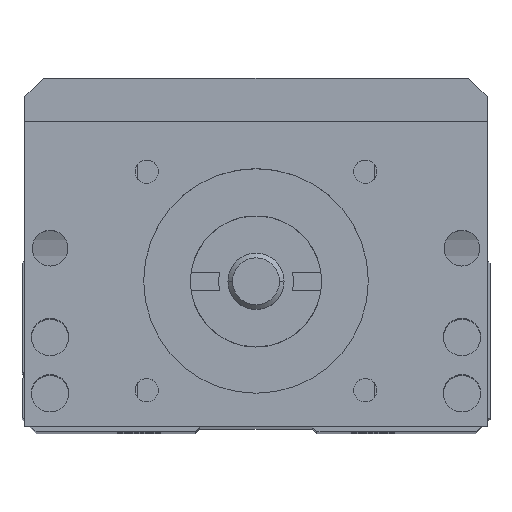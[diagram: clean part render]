
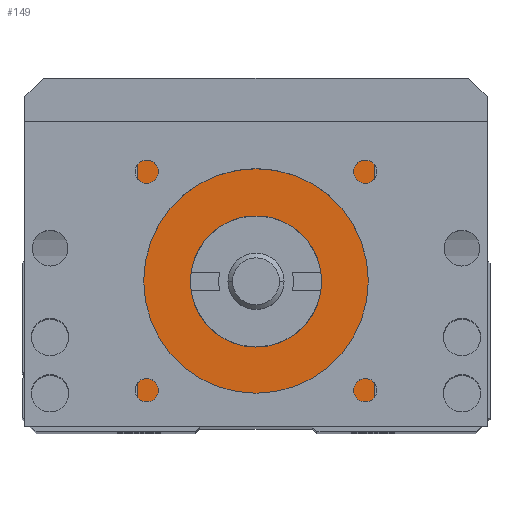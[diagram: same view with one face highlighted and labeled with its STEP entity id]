
A CAD part, top view. The second image highlights one B-rep face of the part: STEP entity #149.
In plain terms, the highlighted planar face has unit normal (0, 0, 1).
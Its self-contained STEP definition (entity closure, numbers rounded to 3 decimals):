
#120 = ORIENTED_EDGE ( 'NONE', *, *, #123, .F. ) ;
#121 = VERTEX_POINT ( 'NONE', #3311 ) ;
#123 = EDGE_CURVE ( 'NONE', #2897, #2893, #3294, .T. ) ;
#126 = ORIENTED_EDGE ( 'NONE', *, *, #128, .T. ) ;
#128 = EDGE_CURVE ( 'NONE', #121, #140, #3286, .T. ) ;
#130 = EDGE_LOOP ( 'NONE', ( #120, #135 ) ) ;
#135 = ORIENTED_EDGE ( 'NONE', *, *, #2898, .F. ) ;
#140 = VERTEX_POINT ( 'NONE', #3329 ) ;
#143 = ORIENTED_EDGE ( 'NONE', *, *, #548, .F. ) ;
#146 = EDGE_CURVE ( 'NONE', #550, #484, #3319, .T. ) ;
#147 = EDGE_CURVE ( 'NONE', #484, #121, #3084, .T. ) ;
#149 = ADVANCED_FACE ( 'NONE', ( #3317, #3320 ), #628, .F. ) ;
#150 = ORIENTED_EDGE ( 'NONE', *, *, #146, .T. ) ;
#484 = VERTEX_POINT ( 'NONE', #3935 ) ;
#538 = ORIENTED_EDGE ( 'NONE', *, *, #147, .T. ) ;
#546 = EDGE_LOOP ( 'NONE', ( #143, #150, #538, #126 ) ) ;
#548 = EDGE_CURVE ( 'NONE', #550, #140, #4052, .T. ) ;
#550 = VERTEX_POINT ( 'NONE', #4008 ) ;
#625 = DIRECTION ( 'NONE',  ( 0., 0., -1. ) ) ;
#626 = CARTESIAN_POINT ( 'NONE',  ( -14.7, 0., 86.5 ) ) ;
#628 = PLANE ( 'NONE',  #630 ) ;
#629 = DIRECTION ( 'NONE',  ( -1., 0., 0. ) ) ;
#630 = AXIS2_PLACEMENT_3D ( 'NONE', #626, #625, #629 ) ;
#2893 = VERTEX_POINT ( 'NONE', #7853 ) ;
#2897 = VERTEX_POINT ( 'NONE', #7910 ) ;
#2898 = EDGE_CURVE ( 'NONE', #2893, #2897, #7909, .T. ) ;
#3063 = DIRECTION ( 'NONE',  ( -1., 0., 0. ) ) ;
#3064 = CARTESIAN_POINT ( 'NONE',  ( -14.7, 33., 86.5 ) ) ;
#3071 = VECTOR ( 'NONE', #3063, 1000. ) ;
#3084 = LINE ( 'NONE', #3064, #3071 ) ;
#3283 = CARTESIAN_POINT ( 'NONE',  ( -12.7, 0.5, 86.5 ) ) ;
#3284 = DIRECTION ( 'NONE',  ( -1., 0., 0. ) ) ;
#3285 = DIRECTION ( 'NONE',  ( 0., 0., 1. ) ) ;
#3286 = LINE ( 'NONE', #3283, #3338 ) ;
#3291 = AXIS2_PLACEMENT_3D ( 'NONE', #3296, #3285, #3284 ) ;
#3294 = CIRCLE ( 'NONE', #3291, 7. ) ;
#3296 = CARTESIAN_POINT ( 'NONE',  ( 0., 16., 86.5 ) ) ;
#3311 = CARTESIAN_POINT ( 'NONE',  ( -12.7, 33., 86.5 ) ) ;
#3314 = DIRECTION ( 'NONE',  ( 0., 1., 0. ) ) ;
#3315 = VECTOR ( 'NONE', #3314, 1000. ) ;
#3317 = FACE_OUTER_BOUND ( 'NONE', #546, .T. ) ;
#3318 = CARTESIAN_POINT ( 'NONE',  ( 12.7, 33., 86.5 ) ) ;
#3319 = LINE ( 'NONE', #3318, #3315 ) ;
#3320 = FACE_BOUND ( 'NONE', #130, .T. ) ;
#3329 = CARTESIAN_POINT ( 'NONE',  ( -12.7, 0.5, 86.5 ) ) ;
#3337 = DIRECTION ( 'NONE',  ( 0., -1., 0. ) ) ;
#3338 = VECTOR ( 'NONE', #3337, 1000. ) ;
#3935 = CARTESIAN_POINT ( 'NONE',  ( 12.7, 33., 86.5 ) ) ;
#4008 = CARTESIAN_POINT ( 'NONE',  ( 12.7, 0.5, 86.5 ) ) ;
#4049 = DIRECTION ( 'NONE',  ( -1., 0., 0. ) ) ;
#4050 = VECTOR ( 'NONE', #4049, 1000. ) ;
#4051 = CARTESIAN_POINT ( 'NONE',  ( -6.008, 0.5, 86.5 ) ) ;
#4052 = LINE ( 'NONE', #4051, #4050 ) ;
#7853 = CARTESIAN_POINT ( 'NONE',  ( 7., 16., 86.5 ) ) ;
#7859 = AXIS2_PLACEMENT_3D ( 'NONE', #7896, #7895, #7894 ) ;
#7894 = DIRECTION ( 'NONE',  ( -1., 0., 0. ) ) ;
#7895 = DIRECTION ( 'NONE',  ( 0., 0., 1. ) ) ;
#7896 = CARTESIAN_POINT ( 'NONE',  ( 0., 16., 86.5 ) ) ;
#7909 = CIRCLE ( 'NONE', #7859, 7. ) ;
#7910 = CARTESIAN_POINT ( 'NONE',  ( -7., 16., 86.5 ) ) ;
